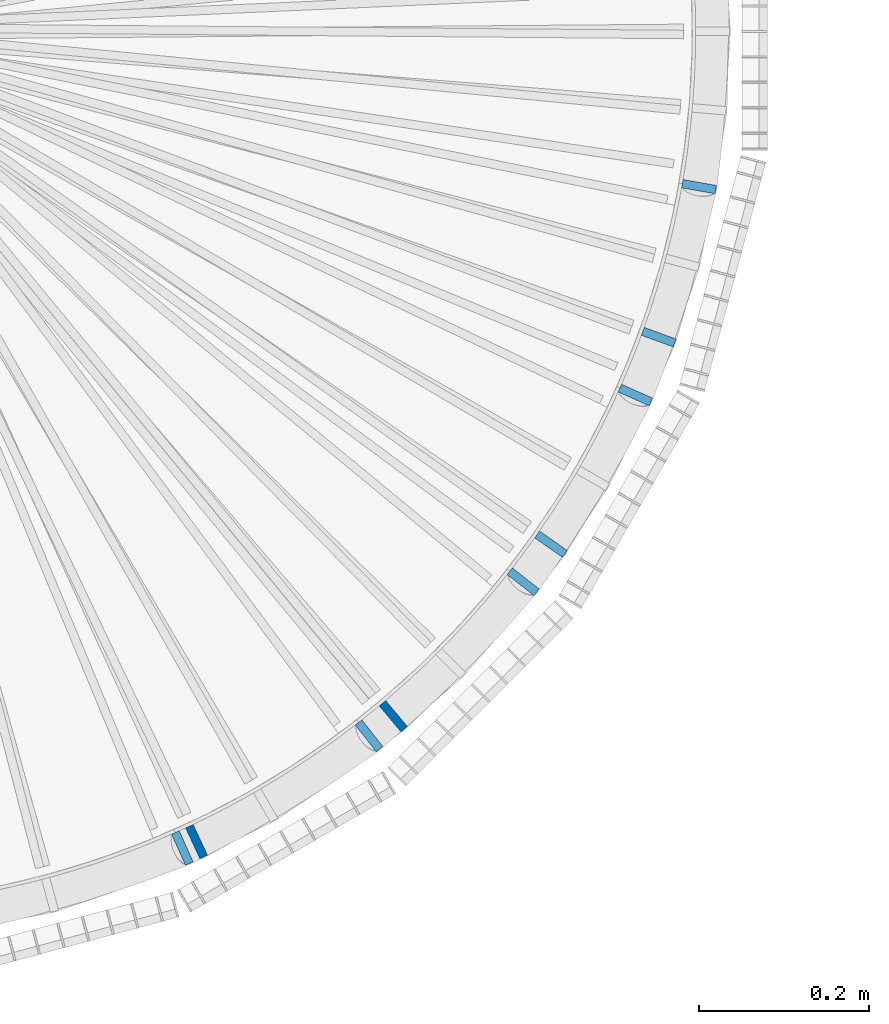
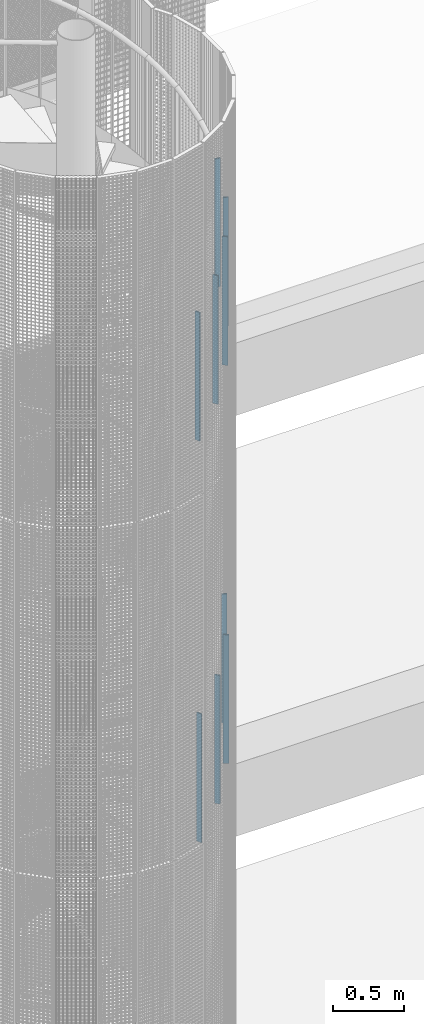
# One storey, part 12 of 1183: 9 columns, 9 elements without a shape of their own.
"""IFC2X3 building model written with IfcOpenShell, lengths in millimetres."""

from ifc_helpers import new_model, si_unit, frame, origin_with_axes, origin_2d_with_axis, place, context, subcontext, project, spatial, rectangle, extrude, material, type_object, element, aggregate, save


model = new_model("IFC2X3")

# Units and contexts
model_context = context("Model", 3, precision=1e-05, world=origin_with_axes())
body_context = subcontext(model_context, "Body", "Model", "MODEL_VIEW")
ifc_project = project(units=[si_unit("LENGTHUNIT", "METRE", prefix="MILLI"), si_unit("AREAUNIT", "SQUARE_METRE"), si_unit("VOLUMEUNIT", "CUBIC_METRE"), si_unit("MASSUNIT", "GRAM", prefix="KILO"), si_unit("TIMEUNIT", "SECOND"), si_unit("PLANEANGLEUNIT", "RADIAN"), si_unit("SOLIDANGLEUNIT", "STERADIAN"), si_unit("THERMODYNAMICTEMPERATUREUNIT", "DEGREE_CELSIUS"), si_unit("LUMINOUSINTENSITYUNIT", "LUMEN")], contexts=[model_context])

# Site, building, storey
site_placement = place(None, origin_with_axes())
site = spatial("IfcSite", under=ifc_project, at=site_placement, Name="Undefined", CompositionType="ELEMENT")
building_placement = place(site_placement, origin_with_axes())
building = spatial("IfcBuilding", under=site, at=building_placement, Name="Undefined", CompositionType="ELEMENT")
storey_placement = place(building_placement, origin_with_axes())
storey = spatial("IfcBuildingStorey", under=building, at=storey_placement, Name="Undefined", CompositionType="ELEMENT", Elevation=0.0)

# Assembly, column
assembly_1_placement = place(storey_placement, origin_with_axes())
assembly_1 = element("IfcElementAssembly", 1, at=assembly_1_placement, inside=storey, Name="MONTANT", AssemblyPlace="NOTDEFINED", PredefinedType="NOTDEFINED")
ifc_material = material(Name="STEEL/S235JR")
column_type = type_object("IfcColumnType", Name="PL10*40", PredefinedType="NOTDEFINED")
column_1_placement = place(assembly_1_placement, frame((830.563334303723, -648.907194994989, 15724.76), z_axis=(0.0, 0.0, 1.0), x_axis=(-0.788010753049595, 0.615661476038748, 0.0)))
column_1 = element("IfcColumn", 2, at=column_1_placement, type_object=column_type, material=ifc_material, Name="MONTANT", context=body_context, shape_type="SweptSolid", body=[
    extrude(rectangle(XDim=10.0, YDim=40.0, at=origin_2d_with_axis()), frame((0.0, 0.0, 1100.0), z_axis=(0.0, 0.0, -1.0), x_axis=(0.0, 1.0, 0.0)), (0.0, 0.0, 1.0), 1100.0),
])
aggregate(assembly_1, [column_1])

assembly_2_placement = place(storey_placement, origin_with_axes())
assembly_2 = element("IfcElementAssembly", 3, at=assembly_2_placement, inside=storey, Name="MONTANT", AssemblyPlace="NOTDEFINED", PredefinedType="NOTDEFINED")
column_2_placement = place(assembly_2_placement, frame((648.90719499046, -830.563334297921, 15568.24), z_axis=(0.0, 0.0, 1.0), x_axis=(-0.615661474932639, 0.788010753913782, 0.0)))
column_2 = element("IfcColumn", 4, at=column_2_placement, type_object=column_type, material=ifc_material, Name="MONTANT", context=body_context, shape_type="SweptSolid", body=[
    extrude(rectangle(XDim=10.0, YDim=40.0, at=origin_2d_with_axis()), frame((0.0, 0.0, 1100.0), z_axis=(0.0, 0.0, -1.0), x_axis=(0.0, 1.0, 0.0)), (0.0, 0.0, 1.0), 1100.0),
])
aggregate(assembly_2, [column_2])

assembly_3_placement = place(storey_placement, origin_with_axes())
assembly_3 = element("IfcElementAssembly", 5, at=assembly_3_placement, inside=storey, Name="MONTANT", AssemblyPlace="NOTDEFINED", PredefinedType="NOTDEFINED")
column_3_placement = place(assembly_3_placement, frame((1037.98737168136, -183.025179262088, 16037.8), z_axis=(0.0, 0.0, 1.0), x_axis=(-0.984807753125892, 0.173648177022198, 0.0)))
column_3 = element("IfcColumn", 6, at=column_3_placement, type_object=column_type, material=ifc_material, Name="MONTANT", context=body_context, shape_type="SweptSolid", body=[
    extrude(rectangle(XDim=10.0, YDim=40.0, at=origin_2d_with_axis()), frame((0.0, 0.0, 1100.0), z_axis=(0.0, 0.0, -1.0), x_axis=(0.0, 1.0, 0.0)), (0.0, 0.0, 1.0), 1100.0),
])
aggregate(assembly_3, [column_3])

assembly_4_placement = place(storey_placement, origin_with_axes())
assembly_4 = element("IfcElementAssembly", 7, at=assembly_4_placement, inside=storey, Name="MONTANT", AssemblyPlace="NOTDEFINED", PredefinedType="NOTDEFINED")
column_4_placement = place(assembly_4_placement, frame((428.700421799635, -962.876912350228, 15411.72), z_axis=(0.0, 0.0, 1.0), x_axis=(-0.406736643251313, 0.913545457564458, 0.0)))
column_4 = element("IfcColumn", 8, at=column_4_placement, type_object=column_type, material=ifc_material, Name="MONTANT", context=body_context, shape_type="SweptSolid", body=[
    extrude(rectangle(XDim=10.0, YDim=40.0, at=origin_2d_with_axis()), frame((0.0, 0.0, 1100.0), z_axis=(0.0, 0.0, -1.0), x_axis=(0.0, 1.0, 0.0)), (0.0, 0.0, 1.0), 1100.0),
])
aggregate(assembly_4, [column_4])

assembly_5_placement = place(storey_placement, origin_with_axes())
assembly_5 = element("IfcElementAssembly", 9, at=assembly_5_placement, inside=storey, Name="MONTANT", AssemblyPlace="NOTDEFINED", PredefinedType="NOTDEFINED")
column_5_placement = place(assembly_5_placement, frame((962.876912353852, -428.700421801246, 15881.28), z_axis=(0.0, 0.0, 1.0), x_axis=(-0.913545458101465, 0.406736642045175, 0.0)))
column_5 = element("IfcColumn", 10, at=column_5_placement, type_object=column_type, material=ifc_material, Name="MONTANT", context=body_context, shape_type="SweptSolid", body=[
    extrude(rectangle(XDim=10.0, YDim=40.0, at=origin_2d_with_axis()), frame((0.0, 0.0, 1100.0), z_axis=(0.0, 0.0, -1.0), x_axis=(0.0, 1.0, 0.0)), (0.0, 0.0, 1.0), 1100.0),
])
aggregate(assembly_5, [column_5])

assembly_6_placement = place(storey_placement, origin_with_axes())
assembly_6 = element("IfcElementAssembly", 11, at=assembly_6_placement, inside=storey, Name="MONTANT", AssemblyPlace="NOTDEFINED", PredefinedType="NOTDEFINED")
column_6_placement = place(assembly_6_placement, frame((677.498140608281, -807.410843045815, 12124.76), z_axis=(0.0, 0.0, 1.0), x_axis=(-0.642787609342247, 0.766044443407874, 0.0)))
column_6 = element("IfcColumn", 12, at=column_6_placement, type_object=column_type, material=ifc_material, Name="MONTANT", context=body_context, shape_type="SweptSolid", body=[
    extrude(rectangle(XDim=10.0, YDim=40.0, at=origin_2d_with_axis()), frame((0.0, 0.0, 1100.0), z_axis=(0.0, 0.0, -1.0), x_axis=(0.0, 1.0, 0.0)), (0.0, 0.0, 1.0), 1100.0),
])
aggregate(assembly_6, [column_6])

assembly_7_placement = place(storey_placement, origin_with_axes())
assembly_7 = element("IfcElementAssembly", 13, at=assembly_7_placement, inside=storey, Name="MONTANT", AssemblyPlace="NOTDEFINED", PredefinedType="NOTDEFINED")
column_7_placement = place(assembly_7_placement, frame((445.439647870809, -955.248407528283, 11968.24), z_axis=(0.0, 0.0, 1.0), x_axis=(-0.422618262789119, 0.906307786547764, 0.0)))
column_7 = element("IfcColumn", 14, at=column_7_placement, type_object=column_type, material=ifc_material, Name="MONTANT", context=body_context, shape_type="SweptSolid", body=[
    extrude(rectangle(XDim=10.0, YDim=40.0, at=origin_2d_with_axis()), frame((0.0, 0.0, 1100.0), z_axis=(0.0, 0.0, -1.0), x_axis=(0.0, 1.0, 0.0)), (0.0, 0.0, 1.0), 1100.0),
])
aggregate(assembly_7, [column_7])

assembly_8_placement = place(storey_placement, origin_with_axes())
assembly_8 = element("IfcElementAssembly", 15, at=assembly_8_placement, inside=storey, Name="MONTANT", AssemblyPlace="NOTDEFINED", PredefinedType="NOTDEFINED")
column_8_placement = place(assembly_8_placement, frame((990.436022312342, -360.489231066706, 12437.8), z_axis=(0.0, 0.0, 1.0), x_axis=(-0.939692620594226, 0.342020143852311, 0.0)))
column_8 = element("IfcColumn", 16, at=column_8_placement, type_object=column_type, material=ifc_material, Name="MONTANT", context=body_context, shape_type="SweptSolid", body=[
    extrude(rectangle(XDim=10.0, YDim=40.0, at=origin_2d_with_axis()), frame((0.0, 0.0, 1100.0), z_axis=(0.0, 0.0, -1.0), x_axis=(0.0, 1.0, 0.0)), (0.0, 0.0, 1.0), 1100.0),
])
aggregate(assembly_8, [column_8])

assembly_9_placement = place(storey_placement, origin_with_axes())
assembly_9 = element("IfcElementAssembly", 17, at=assembly_9_placement, inside=storey, Name="MONTANT", AssemblyPlace="NOTDEFINED", PredefinedType="NOTDEFINED")
column_9_placement = place(assembly_9_placement, frame((863.386254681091, -604.549563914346, 12281.28), z_axis=(0.0, 0.0, 1.0), x_axis=(-0.819152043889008, 0.573576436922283, 0.0)))
column_9 = element("IfcColumn", 18, at=column_9_placement, type_object=column_type, material=ifc_material, Name="MONTANT", context=body_context, shape_type="SweptSolid", body=[
    extrude(rectangle(XDim=10.0, YDim=40.0, at=origin_2d_with_axis()), frame((0.0, 0.0, 1100.0), z_axis=(0.0, 0.0, -1.0), x_axis=(0.0, 1.0, 0.0)), (0.0, 0.0, 1.0), 1100.0),
])
aggregate(assembly_9, [column_9])

save(model, "model.ifc")
